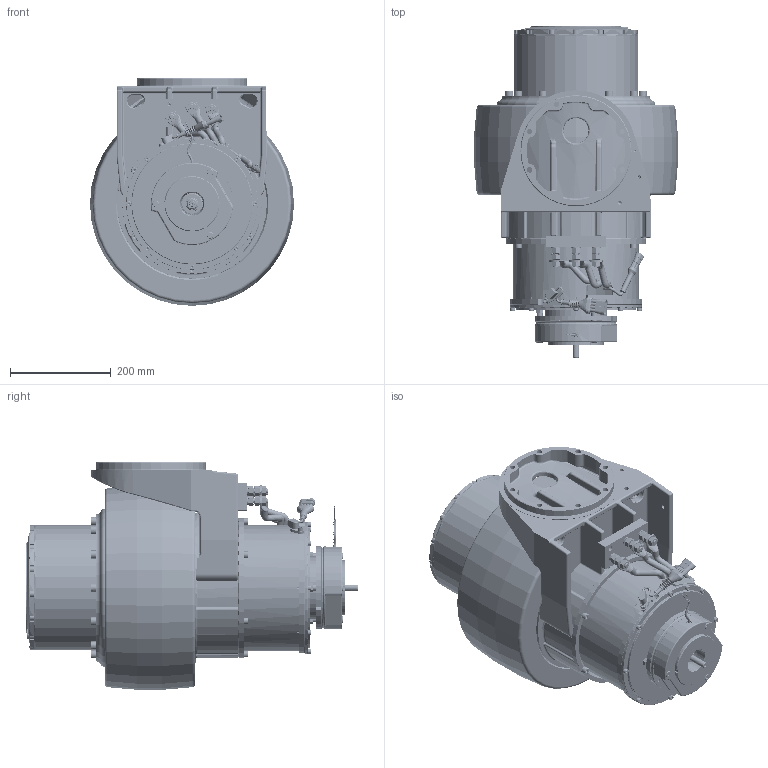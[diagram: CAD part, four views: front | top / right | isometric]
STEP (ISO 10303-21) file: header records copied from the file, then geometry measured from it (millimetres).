
FILE_DESCRIPTION(/* description */ (''),/* implementation_level */ '2;1');
FILE_NAME(/* name */ 'Z:\SITO WEB 2023\Motoruote\Orizzontali NON sterzanti\MR415FM\MR415FM AC\MR415FM-AC.stp',/* time_stamp */ '2023-08-04T11:39:33+02:00',/* author */ ('cad3'),/* organization */ (''),/* preprocessor_version */ 'ST-DEVELOPER v18.1',/* originating_system */ 'Autodesk Inventor 2022',/* authorisation */ '');
FILE_SCHEMA (('AUTOMOTIVE_DESIGN { 1 0 10303 214 3 1 1 }'));
Products named in the file (1): MR415FM-AC
Bounding box: 406 x 660.5 x 453 mm (x, y, z)
Volume: 25396350.3 mm3; surface area: 2905520.4 mm2
Topology: 37 solids, 161 shells, 10065 faces, 25525 edges, 16497 vertices
Faces by surface type: plane 7062, cylinder 1568, cone 533, torus 392, bspline 390, sphere 120
Full cylindrical faces by diameter (mm): 1.88 x2, 2 x2, 2.5 x5, 3 x8, 4 x4, 4.134 x8, 4.5 x3, 4.917 x14, 5 x8, 5.5 x8, 6 x16, 6.2 x1, 6.5 x14, 6.647 x21, 6.917 x8, 7 x1, 7.188 x6, 8 x27, 8.25 x15, 8.376 x20, 8.4 x6, 8.5 x14, 9 x9, 9.5 x10, 10 x39, 10.2 x3, 10.5 x20, 10.863 x8, 11 x16, 11.8 x3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
Entity records: 376645 total; most frequent: CARTESIAN_POINT 122650, ORIENTED_EDGE 50900, DIRECTION 50499, EDGE_CURVE 25450, AXIS2_PLACEMENT_3D 17743, VERTEX_POINT 16617, LINE 15013, VECTOR 15013
